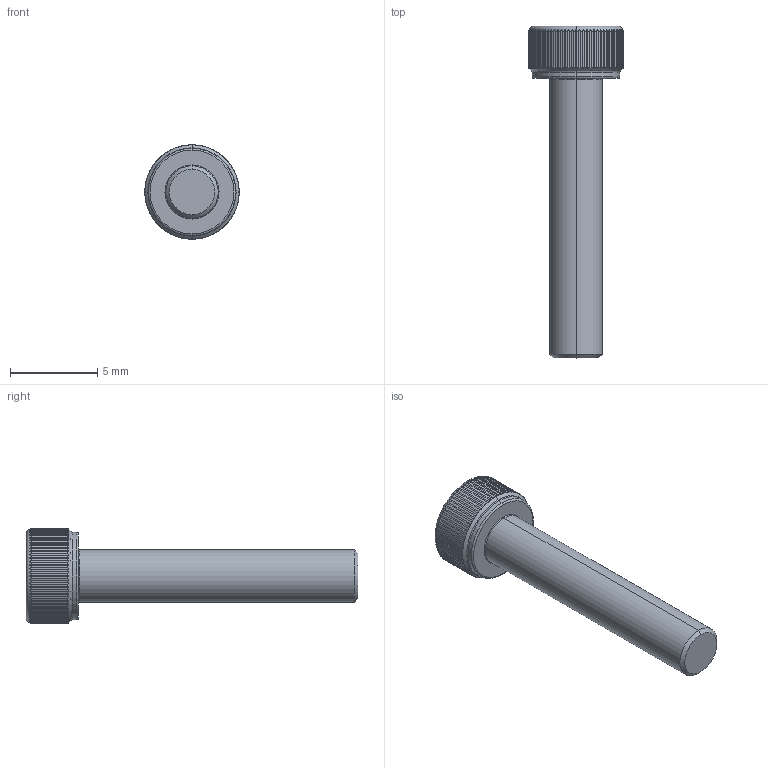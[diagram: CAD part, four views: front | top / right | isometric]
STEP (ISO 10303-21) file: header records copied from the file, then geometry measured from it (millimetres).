
FILE_DESCRIPTION (( 'STEP AP203' ), '1' );
FILE_NAME ('LGDT-304-M3x16.STEP', '2026-08-08T07:34:46', ( '' ), ( '' ), 'SwSTEP 2.0', 'SolidWorks 2020', '' );
FILE_SCHEMA (( 'CONFIG_CONTROL_DESIGN' ));
Length unit declared in the file: millimetre
Products named in the file (1): LGDT-304-M3x16
Bounding box: 5.4 x 19 x 5.4 mm (x, y, z)
Volume: 170.8 mm3; surface area: 254.5 mm2
Topology: 1 solids, 1 shells, 204 faces, 576 edges, 376 vertices
Faces by surface type: cylinder 175, cone 11, plane 10, torus 8
Entity records: 10019 total; most frequent: CARTESIAN_POINT 4860, ORIENTED_EDGE 1152, DIRECTION 988, EDGE_CURVE 576, AXIS2_PLACEMENT_3D 398, VERTEX_POINT 376, EDGE_LOOP 206, FACE_OUTER_BOUND 204
